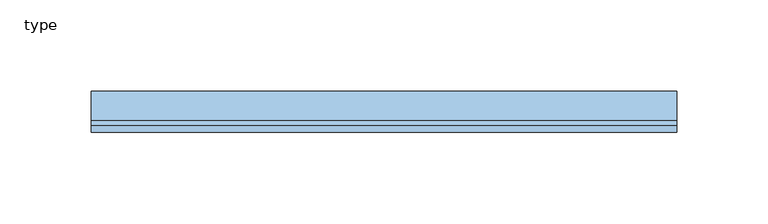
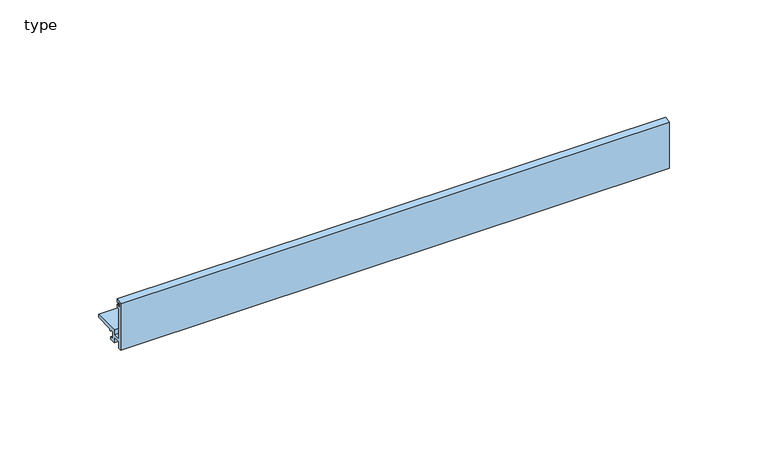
"""IFC4 building model written with IfcOpenShell, lengths in millimetres: window geometry, NLRS_30_MC_beglazingsprofiel_aluminium : type."""

from ifc_helpers import new_model, si_unit, frame, origin, place, context, project, spatial, polyline, outline, extrude, source, transform, mapped, element, save


def type_f8ae4d67(model_context):
    return source(origin(), model_context, "Body", "SweptSolid", [
        extrude(outline(polyline([(0.0, -5.5), (0.0, 23.0), (3.5, 24.0), (3.5, 22.0), (2.5, 22.0), (2.5, 22.8571429), (1.0, 22.4285715), (1.0, 20.4285715), (2.5, 20.0), (2.5, 20.8571429), (3.5, 20.8571429), (3.5, 18.8571429), (2.0, 18.8571429), (2.0, 0.0), (6.5253751, 0.0), (6.5253751, 3.0), (22.5253751, 3.0), (22.5253751, 1.0), (11.0253751, 1.0), (11.0253751, 0.0), (10.0253751, 0.0), (10.0253751, 1.0), (8.0253751, 1.0), (8.0253751, -3.5), (10.0253751, -3.5), (10.0253751, -5.0), (6.5253751, -5.0), (6.5253751, -1.5), (2.0, -1.5), (2.0, -5.5), (0.0, -5.5)])), frame((-160.5, 0.0, 0.0), z_axis=(1.0, 0.0, 0.0), x_axis=(0.0, 1.0, 0.0)), (0.0, 0.0, 1.0), 321.0),
    ])


if __name__ == "__main__":
    model = new_model("IFC4")
    model_context = context("Model", 3, world=origin())
    ifc_project = project(units=[si_unit("LENGTHUNIT", "METRE", prefix="MILLI")], contexts=[model_context])
    site = spatial("IfcSite", under=ifc_project)
    building = spatial("IfcBuilding", under=site)
    placement = place(None, origin())
    ifc_type_shape = type_f8ae4d67(model_context)
    element("IfcWindow", 1, ObjectType="NLRS_30_MC_beglazingsprofiel_aluminium : type", at=placement, inside=building, context=model_context, shape_type="MappedRepresentation", body=[
        mapped(ifc_type_shape, transform((0.0, 0.0, 0.0), x_axis=(1.0, 0.0, 0.0), y_axis=(0.0, 1.0, 0.0), z_axis=(0.0, 0.0, 1.0))),
    ])
    save(model, "model.ifc")
